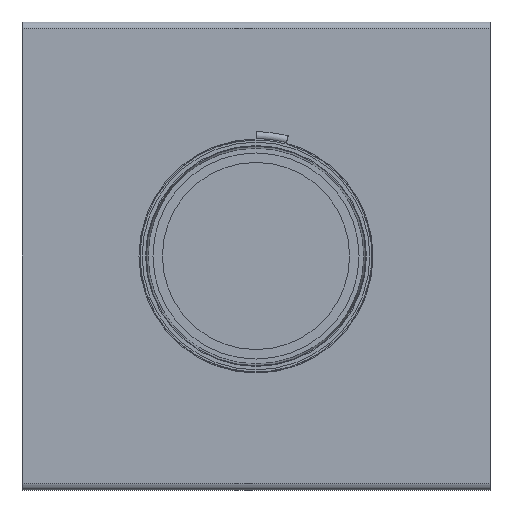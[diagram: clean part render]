
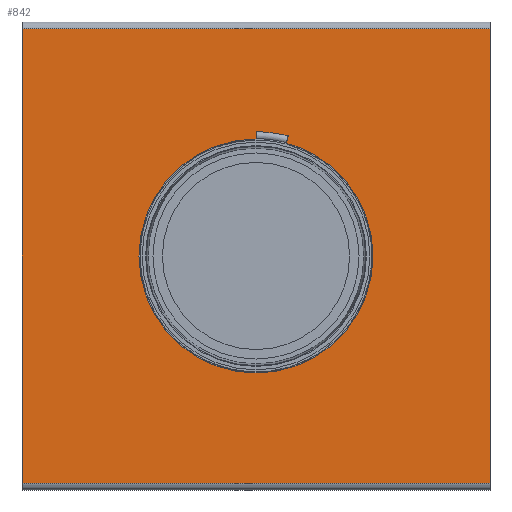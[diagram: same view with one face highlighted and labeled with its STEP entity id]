
A CAD part, front view. The second image highlights one B-rep face of the part: STEP entity #842.
In plain terms, the highlighted planar face has unit normal (0, -1, 0).
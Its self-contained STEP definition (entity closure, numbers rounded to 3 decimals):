
#46=FACE_BOUND('',#220,.T.);
#80=PLANE('',#954);
#133=FACE_OUTER_BOUND('',#219,.T.);
#219=EDGE_LOOP('',(#706,#707,#708,#709));
#220=EDGE_LOOP('',(#710));
#277=LINE('',#1423,#321);
#282=LINE('',#1435,#326);
#283=LINE('',#1439,#327);
#284=LINE('',#1440,#328);
#321=VECTOR('',#1172,10.);
#326=VECTOR('',#1181,10.);
#327=VECTOR('',#1186,10.);
#328=VECTOR('',#1187,10.);
#384=CIRCLE('',#955,167.5);
#447=VERTEX_POINT('',#1420);
#448=VERTEX_POINT('',#1422);
#453=VERTEX_POINT('',#1434);
#454=VERTEX_POINT('',#1438);
#455=VERTEX_POINT('',#1441);
#537=EDGE_CURVE('',#448,#447,#277,.T.);
#543=EDGE_CURVE('',#448,#453,#282,.T.);
#545=EDGE_CURVE('',#454,#447,#283,.T.);
#546=EDGE_CURVE('',#454,#453,#284,.T.);
#547=EDGE_CURVE('',#455,#455,#384,.T.);
#706=ORIENTED_EDGE('',*,*,#543,.F.);
#707=ORIENTED_EDGE('',*,*,#537,.T.);
#708=ORIENTED_EDGE('',*,*,#545,.F.);
#709=ORIENTED_EDGE('',*,*,#546,.T.);
#710=ORIENTED_EDGE('',*,*,#547,.T.);
#842=ADVANCED_FACE('',(#133,#46),#80,.T.);
#954=AXIS2_PLACEMENT_3D('',#1437,#1184,#1185);
#955=AXIS2_PLACEMENT_3D('',#1442,#1188,#1189);
#1172=DIRECTION('',(0.,0.,1.));
#1181=DIRECTION('',(-1.,0.,0.));
#1184=DIRECTION('center_axis',(0.,-1.,0.));
#1185=DIRECTION('ref_axis',(0.,0.,-1.));
#1186=DIRECTION('',(1.,0.,0.));
#1187=DIRECTION('',(0.,0.,-1.));
#1188=DIRECTION('center_axis',(0.,1.,0.));
#1189=DIRECTION('ref_axis',(0.,0.,1.));
#1420=CARTESIAN_POINT('',(335.,-335.,325.));
#1422=CARTESIAN_POINT('',(335.,-335.,-325.));
#1423=CARTESIAN_POINT('',(335.,-335.,335.));
#1434=CARTESIAN_POINT('',(-335.,-335.,-325.));
#1435=CARTESIAN_POINT('',(167.5,-335.,-325.));
#1437=CARTESIAN_POINT('Origin',(0.,-335.,0.));
#1438=CARTESIAN_POINT('',(-335.,-335.,325.));
#1439=CARTESIAN_POINT('',(-167.5,-335.,325.));
#1440=CARTESIAN_POINT('',(-335.,-335.,-335.));
#1441=CARTESIAN_POINT('',(0.,-335.,167.5));
#1442=CARTESIAN_POINT('Origin',(0.,-335.,0.));
